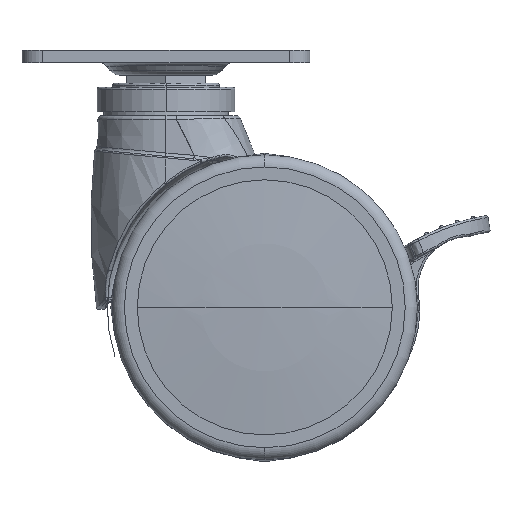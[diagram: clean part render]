
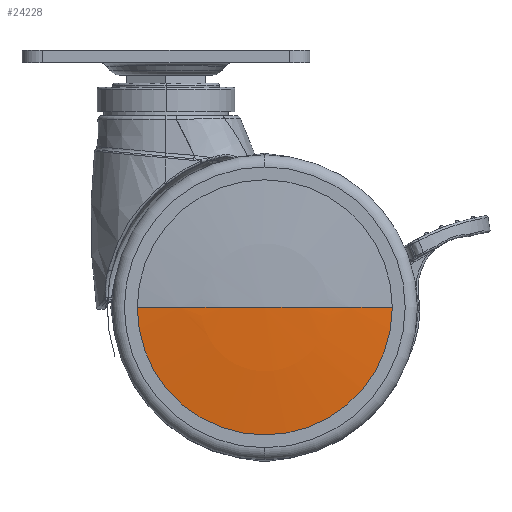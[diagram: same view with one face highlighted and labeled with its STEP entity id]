
A CAD part, top view. The second image highlights one B-rep face of the part: STEP entity #24228.
In plain terms, the highlighted spherical face has radius 321.083 mm.
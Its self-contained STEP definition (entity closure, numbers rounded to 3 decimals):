
#24103=CARTESIAN_POINT('',(-393.545,0.,0.));
#24104=DIRECTION('',(0.,0.,-1.));
#24105=DIRECTION('',(0.995,0.097,0.));
#24106=AXIS2_PLACEMENT_3D('',#24103,#24104,#24105);
#24108=CARTESIAN_POINT('',(-73.962,0.,0.));
#24109=DIRECTION('',(1.,0.,0.));
#24110=DIRECTION('',(0.,0.,-1.));
#24111=AXIS2_PLACEMENT_3D('',#24108,#24109,#24110);
#24113=CARTESIAN_POINT('',(-73.962,0.,0.));
#24114=DIRECTION('',(1.,0.,0.));
#24115=DIRECTION('',(0.,-1.,0.));
#24116=AXIS2_PLACEMENT_3D('',#24113,#24114,#24115);
#24118=CARTESIAN_POINT('',(-393.545,0.,0.));
#24119=DIRECTION('',(0.,0.,-1.));
#24120=DIRECTION('',(1.,0.,0.));
#24121=AXIS2_PLACEMENT_3D('',#24118,#24119,#24120);
#24137=CARTESIAN_POINT('',(-73.962,0.,
-31.));
#24138=VERTEX_POINT('',#24137);
#24139=CARTESIAN_POINT('',(-73.962,31.,
0.));
#24140=VERTEX_POINT('',#24139);
#24143=CARTESIAN_POINT('',(-72.462,0.,0.));
#24144=CARTESIAN_POINT('',(-73.962,-31.,
0.));
#24145=VERTEX_POINT('',#24143);
#24146=VERTEX_POINT('',#24144);
#24217=CARTESIAN_POINT('',(-393.545,0.,0.));
#24218=DIRECTION('',(-1.,0.,0.));
#24219=DIRECTION('',(0.,-1.,0.));
#24220=AXIS2_PLACEMENT_3D('',#24217,#24218,#24219);
#24221=SPHERICAL_SURFACE('',#24220,321.083);
#24222=ORIENTED_EDGE('',*,*,#24212,.F.);
#24223=ORIENTED_EDGE('',*,*,#24162,.F.);
#24224=ORIENTED_EDGE('',*,*,#24196,.F.);
#24225=ORIENTED_EDGE('',*,*,#24208,.F.);
#24226=EDGE_LOOP('',(#24222,#24223,#24224,#24225));
#24227=FACE_OUTER_BOUND('',#24226,.F.);
#24107=CIRCLE('',#24106,321.083);
#24112=CIRCLE('',#24111,31.);
#24117=CIRCLE('',#24116,31.);
#24122=CIRCLE('',#24121,321.083);
#24162=EDGE_CURVE('',#24138,#24140,#24112,.T.);
#24196=EDGE_CURVE('',#24146,#24138,#24117,.T.);
#24208=EDGE_CURVE('',#24145,#24146,#24122,.T.);
#24212=EDGE_CURVE('',#24140,#24145,#24107,.T.);
#24228=ADVANCED_FACE('',(#24227),#24221,.T.);
